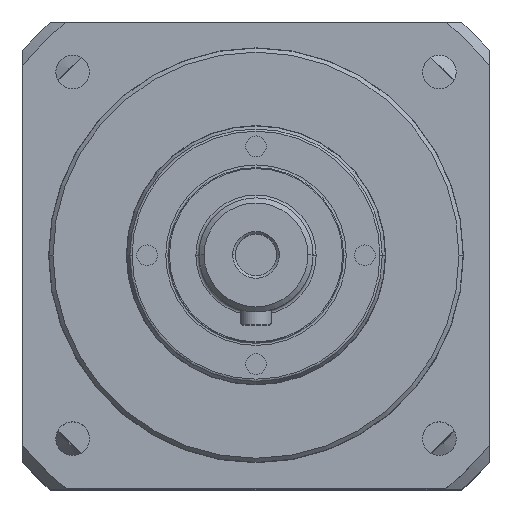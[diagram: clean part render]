
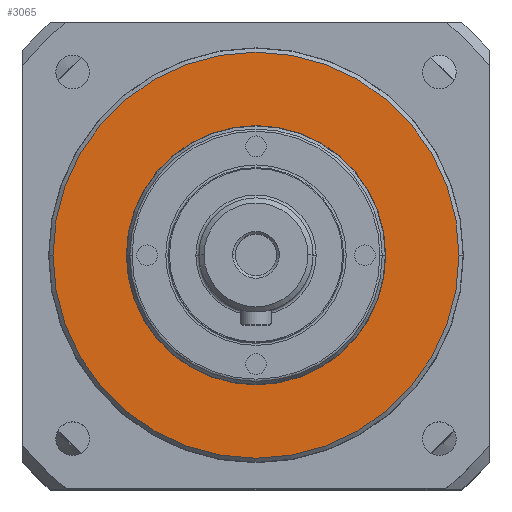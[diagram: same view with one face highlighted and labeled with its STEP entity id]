
A CAD part, top view. The second image highlights one B-rep face of the part: STEP entity #3065.
In plain terms, the highlighted planar face has unit normal (0, 0, 1).
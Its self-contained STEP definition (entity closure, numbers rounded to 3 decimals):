
#914=CARTESIAN_POINT('',(0.,0.,64.5));
#915=DIRECTION('',(0.,0.,-1.));
#916=DIRECTION('',(-1.,0.,0.));
#917=AXIS2_PLACEMENT_3D('',#914,#915,#916);
#919=CARTESIAN_POINT('',(0.,0.,64.5));
#920=DIRECTION('',(0.,0.,-1.));
#921=DIRECTION('',(1.,0.,0.));
#922=AXIS2_PLACEMENT_3D('',#919,#920,#921);
#924=CARTESIAN_POINT('',(0.,0.,64.5));
#925=DIRECTION('',(0.,0.,1.));
#926=DIRECTION('',(-1.,0.,0.));
#927=AXIS2_PLACEMENT_3D('',#924,#925,#926);
#942=CARTESIAN_POINT('',(0.,0.,64.5));
#943=DIRECTION('',(0.,0.,1.));
#944=DIRECTION('',(1.,0.,0.));
#945=AXIS2_PLACEMENT_3D('',#942,#943,#944);
#2588=CARTESIAN_POINT('',(-25.,0.,64.5));
#2589=CARTESIAN_POINT('',(25.,0.,64.5));
#2590=VERTEX_POINT('',#2588);
#2591=VERTEX_POINT('',#2589);
#2688=CARTESIAN_POINT('',(39.15,0.,64.5));
#2689=CARTESIAN_POINT('',(-39.15,0.,64.5));
#2690=VERTEX_POINT('',#2688);
#2691=VERTEX_POINT('',#2689);
#3050=CARTESIAN_POINT('',(0.,0.,64.5));
#3051=DIRECTION('',(0.,0.,1.));
#3052=DIRECTION('',(1.,0.,0.));
#3053=AXIS2_PLACEMENT_3D('',#3050,#3051,#3052);
#3054=PLANE('',#3053);
#3056=ORIENTED_EDGE('',*,*,#3055,.F.);
#3058=ORIENTED_EDGE('',*,*,#3057,.F.);
#3059=EDGE_LOOP('',(#3056,#3058));
#3060=FACE_OUTER_BOUND('',#3059,.F.);
#3061=ORIENTED_EDGE('',*,*,#3030,.F.);
#3062=ORIENTED_EDGE('',*,*,#3044,.F.);
#3063=EDGE_LOOP('',(#3061,#3062));
#3064=FACE_BOUND('',#3063,.F.);
#3065=ADVANCED_FACE('',(#3060,#3064),#3054,.T.);
#918=CIRCLE('',#917,25.);
#923=CIRCLE('',#922,25.);
#928=CIRCLE('',#927,39.15);
#946=CIRCLE('',#945,39.15);
#3030=EDGE_CURVE('',#2590,#2591,#918,.T.);
#3044=EDGE_CURVE('',#2591,#2590,#923,.T.);
#3055=EDGE_CURVE('',#2691,#2690,#928,.T.);
#3057=EDGE_CURVE('',#2690,#2691,#946,.T.);
